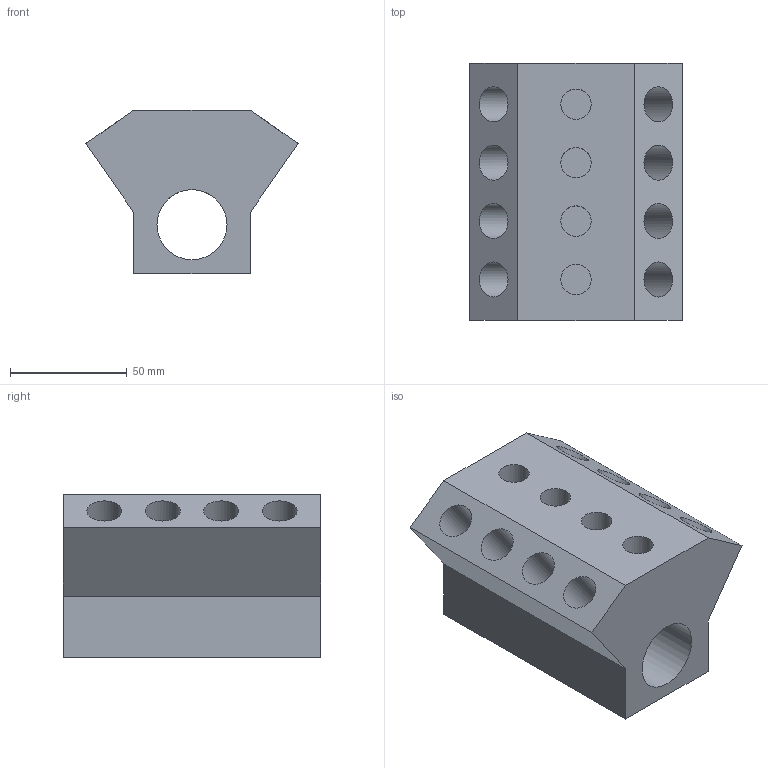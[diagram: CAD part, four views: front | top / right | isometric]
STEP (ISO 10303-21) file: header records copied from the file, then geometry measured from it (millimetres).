
FILE_DESCRIPTION(/* description */ ('STEP AP242','CAx-IF Rec.Pracs.---Representation and Presentation of Product Manufacturing Information (PMI)---4.0---2014-10-13','CAx-IF Rec.Pracs.---3D Tessellated Geometry---0.4---2014-09-14','2;1'),/* implementation_level */ '2;1');
FILE_NAME(/* name */ '64c8025976273f070d60f46e',/* time_stamp */ '2023-07-31T18:50:01Z',/* author */ (''),/* organization */ (''),/* preprocessor_version */ 'ST-DEVELOPER v19.4',/* originating_system */ ' ',/* authorisation */ ' ');
FILE_SCHEMA (('AP242_MANAGED_MODEL_BASED_3D_ENGINEERING_MIM_LF { 1 0 10303 442 1 1 4 }'));
Length unit declared in the file: metre
Products named in the file (1): Block
Bounding box: 90.96 x 110 x 70 mm (x, y, z)
Volume: 331706.5 mm3; surface area: 65461 mm2
Topology: 1 solids, 1 shells, 27 faces, 63 edges, 42 vertices
Faces by surface type: plane 14, cylinder 13
Full cylindrical faces by diameter (mm): 13 x4, 15 x8, 30 x1
Entity records: 916 total; most frequent: CARTESIAN_POINT 284, DIRECTION 116, ORIENTED_EDGE 100, EDGE_LOOP 62, FACE_BOUND 62, EDGE_CURVE 50, AXIS2_PLACEMENT_3D 46, VERTEX_POINT 42
